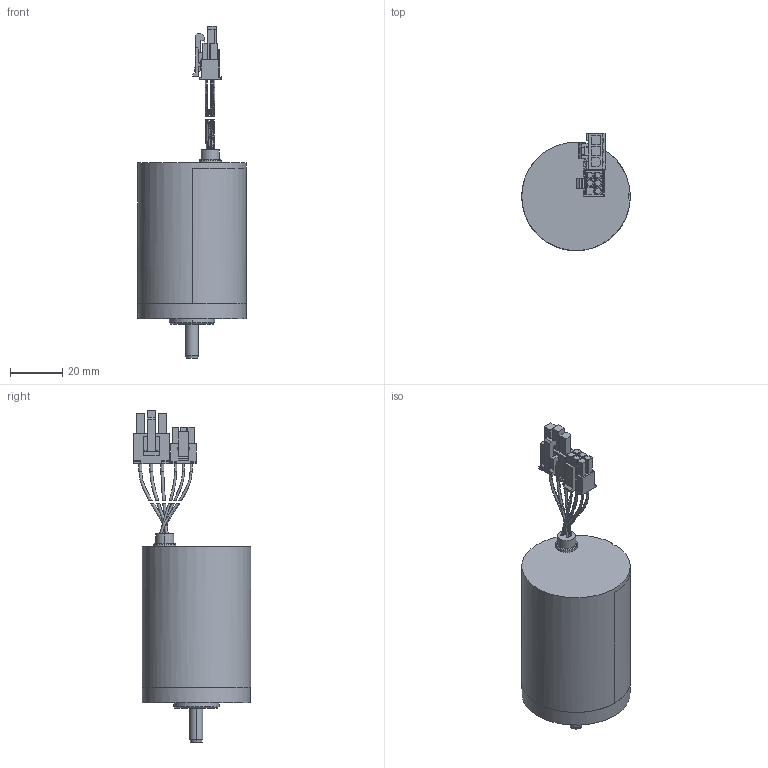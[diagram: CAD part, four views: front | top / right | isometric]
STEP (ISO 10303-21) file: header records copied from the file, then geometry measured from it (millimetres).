
FILE_DESCRIPTION((''),'2;1');
FILE_NAME('4611130001031_SW0001','2026-01-19T14:43:44',('TQ00698'),(''),'CREO PARAMETRIC BY PTC INC, 2018100','CREO PARAMETRIC BY PTC INC, 2018100','');
FILE_SCHEMA(('CONFIG_CONTROL_DESIGN'));
Length unit declared in the file: millimetre
Products named in the file (1): 4611130001031_SW0001
Bounding box: 41.7 x 45.05 x 127.6 mm (x, y, z)
Volume: 84819.5 mm3; surface area: 14351.1 mm2
Topology: 3 solids, 4 shells, 356 faces, 933 edges, 606 vertices
Faces by surface type: plane 248, cylinder 53, bspline 47, cone 8
Entity records: 15079 total; most frequent: CARTESIAN_POINT 6628, ORIENTED_EDGE 1866, DIRECTION 1499, EDGE_CURVE 933, VECTOR 661, LINE 661, VERTEX_POINT 606, AXIS2_PLACEMENT_3D 419
